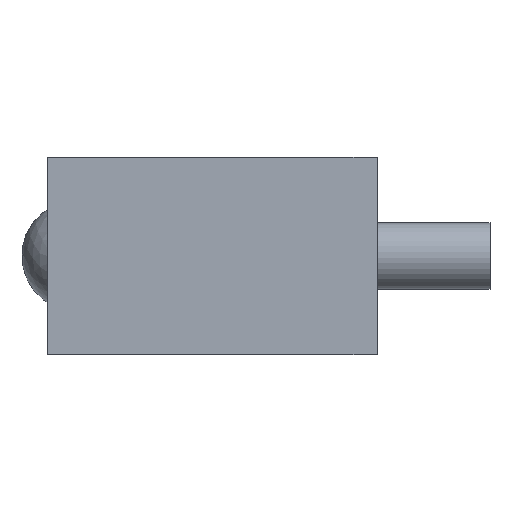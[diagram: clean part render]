
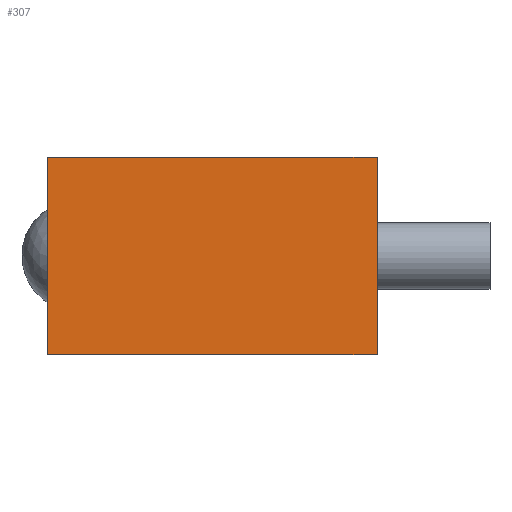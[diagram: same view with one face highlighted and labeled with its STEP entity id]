
A CAD part, left-side view. The second image highlights one B-rep face of the part: STEP entity #307.
In plain terms, the highlighted planar face has unit normal (-1, 0, 0).
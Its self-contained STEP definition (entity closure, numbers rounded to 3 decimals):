
#21=LINE('',#499,#37);
#27=LINE('',#514,#43);
#31=LINE('',#526,#47);
#33=LINE('',#529,#49);
#37=VECTOR('',#420,10.);
#43=VECTOR('',#430,10.);
#47=VECTOR('',#446,10.);
#49=VECTOR('',#450,10.);
#72=PLANE('',#363);
#92=FACE_OUTER_BOUND('',#122,.T.);
#122=EDGE_LOOP('',(#249,#250,#251,#252));
#154=VERTEX_POINT('',#497);
#155=VERTEX_POINT('',#498);
#161=VERTEX_POINT('',#511);
#162=VERTEX_POINT('',#513);
#180=EDGE_CURVE('',#154,#155,#21,.T.);
#187=EDGE_CURVE('',#161,#162,#27,.T.);
#193=EDGE_CURVE('',#162,#154,#31,.T.);
#195=EDGE_CURVE('',#155,#161,#33,.T.);
#249=ORIENTED_EDGE('',*,*,#187,.F.);
#250=ORIENTED_EDGE('',*,*,#195,.F.);
#251=ORIENTED_EDGE('',*,*,#180,.F.);
#252=ORIENTED_EDGE('',*,*,#193,.F.);
#307=ADVANCED_FACE('',(#92),#72,.T.);
#363=AXIS2_PLACEMENT_3D('',#528,#448,#449);
#420=DIRECTION('',(0.,0.,1.));
#430=DIRECTION('',(0.,0.,-1.));
#446=DIRECTION('',(0.,1.,0.));
#448=DIRECTION('center_axis',(-1.,0.,0.));
#449=DIRECTION('ref_axis',(0.,-1.,0.));
#450=DIRECTION('',(0.,-1.,0.));
#497=CARTESIAN_POINT('',(-70.,14.9,-8.9));
#498=CARTESIAN_POINT('',(-70.,14.9,8.9));
#499=CARTESIAN_POINT('',(-70.,14.9,0.));
#511=CARTESIAN_POINT('',(-70.,-14.9,8.9));
#513=CARTESIAN_POINT('',(-70.,-14.9,-8.9));
#514=CARTESIAN_POINT('',(-70.,-14.9,0.));
#526=CARTESIAN_POINT('',(-70.,14.9,-8.9));
#528=CARTESIAN_POINT('Origin',(-70.,14.9,0.));
#529=CARTESIAN_POINT('',(-70.,14.9,8.9));
